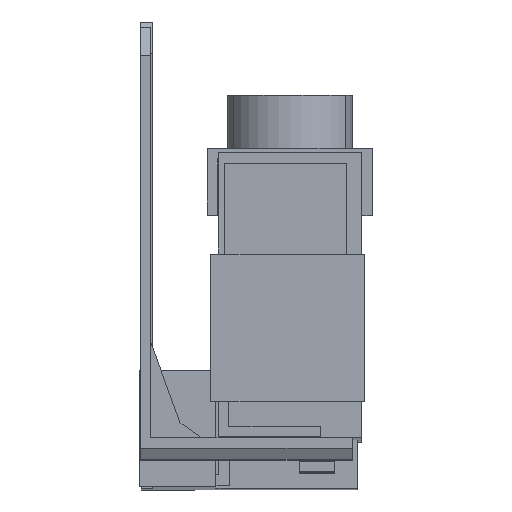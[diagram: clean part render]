
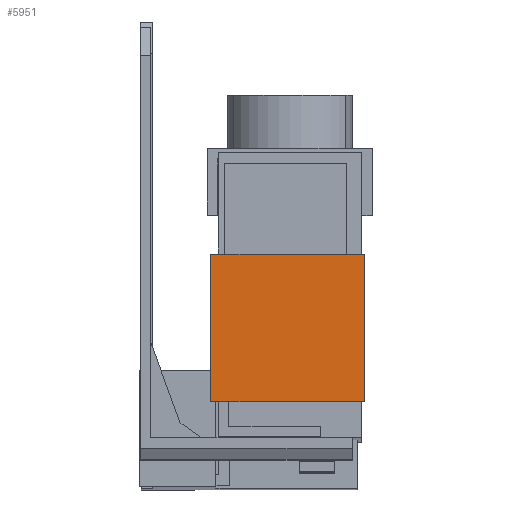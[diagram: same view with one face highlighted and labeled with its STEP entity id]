
A CAD part, front view. The second image highlights one B-rep face of the part: STEP entity #5951.
In plain terms, the highlighted planar face has unit normal (0, -1, 0.003).
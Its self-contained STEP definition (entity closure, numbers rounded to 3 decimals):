
#64 = EDGE_LOOP ( 'NONE', ( #5215, #5214, #5213, #5212 ) ) ;
#350 = EDGE_CURVE ( 'NONE', #2248, #2252, #4936, .T. ) ;
#410 = EDGE_CURVE ( 'NONE', #2250, #2249, #4791, .T. ) ;
#485 = EDGE_CURVE ( 'NONE', #2248, #2250, #3398, .T. ) ;
#759 = EDGE_CURVE ( 'NONE', #2249, #2252, #3840, .T. ) ;
#1173 = CARTESIAN_POINT ( 'NONE',  ( 9.3, -31.452, -19.316 ) ) ;
#1305 = CARTESIAN_POINT ( 'NONE',  ( 31.95, -31.452, -19.316 ) ) ;
#1306 = DIRECTION ( 'NONE',  ( 0., -0.003, -1. ) ) ;
#1418 = CARTESIAN_POINT ( 'NONE',  ( 10.05, -31.509, -40.315 ) ) ;
#1419 = DIRECTION ( 'NONE',  ( 0., 0.003, 1. ) ) ;
#1564 = DIRECTION ( 'NONE',  ( 1., 0., 0. ) ) ;
#2248 = VERTEX_POINT ( 'NONE', #3068 ) ;
#2249 = VERTEX_POINT ( 'NONE', #3067 ) ;
#2250 = VERTEX_POINT ( 'NONE', #3066 ) ;
#2252 = VERTEX_POINT ( 'NONE', #3063 ) ;
#2414 = CARTESIAN_POINT ( 'NONE',  ( 9.3, -31.509, -40.315 ) ) ;
#2417 = DIRECTION ( 'NONE',  ( 1., 0., 0. ) ) ;
#3063 = CARTESIAN_POINT ( 'NONE',  ( 31.95, -31.509, -40.315 ) ) ;
#3066 = CARTESIAN_POINT ( 'NONE',  ( 10.05, -31.452, -19.316 ) ) ;
#3067 = CARTESIAN_POINT ( 'NONE',  ( 31.95, -31.452, -19.316 ) ) ;
#3068 = CARTESIAN_POINT ( 'NONE',  ( 10.05, -31.509, -40.315 ) ) ;
#3398 = LINE ( 'NONE', #1418, #3399 ) ;
#3399 = VECTOR ( 'NONE', #1419, 1000. ) ;
#3840 = LINE ( 'NONE', #1305, #3841 ) ;
#3841 = VECTOR ( 'NONE', #1306, 1000. ) ;
#4316 = FACE_OUTER_BOUND ( 'NONE', #64, .T. ) ;
#4499 = AXIS2_PLACEMENT_3D ( 'NONE', #4725, #4731, #4732 ) ;
#4722 = PLANE ( 'NONE',  #4499 ) ;
#4725 = CARTESIAN_POINT ( 'NONE',  ( 9.3, -31.509, -40.315 ) ) ;
#4731 = DIRECTION ( 'NONE',  ( 0., -1., 0.003 ) ) ;
#4732 = DIRECTION ( 'NONE',  ( -1., 0., 0. ) ) ;
#4786 = VECTOR ( 'NONE', #1564, 1000. ) ;
#4791 = LINE ( 'NONE', #1173, #4786 ) ;
#4931 = VECTOR ( 'NONE', #2417, 1000. ) ;
#4936 = LINE ( 'NONE', #2414, #4931 ) ;
#5212 = ORIENTED_EDGE ( 'NONE', *, *, #759, .F. ) ;
#5213 = ORIENTED_EDGE ( 'NONE', *, *, #350, .T. ) ;
#5214 = ORIENTED_EDGE ( 'NONE', *, *, #485, .F. ) ;
#5215 = ORIENTED_EDGE ( 'NONE', *, *, #410, .F. ) ;
#5951 = ADVANCED_FACE ( 'NONE', ( #4316 ), #4722, .T. ) ;
